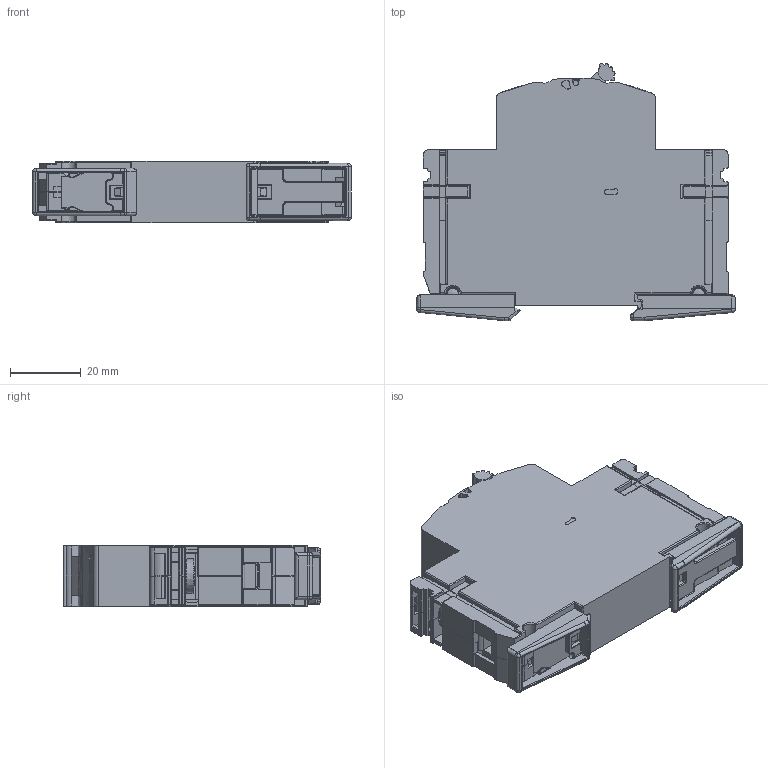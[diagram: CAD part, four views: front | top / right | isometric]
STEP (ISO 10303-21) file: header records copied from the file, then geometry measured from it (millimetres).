
FILE_DESCRIPTION (( 'STEP AP214' ), '1' );
FILE_NAME ('LPE-1_zj2.step', '2013-06-24T08:46:58', ( 'Siemens' ), ( 'Siemens' ), 'SwSTEP 2.0', 'SolidWorks 2011', '' );
FILE_SCHEMA (( 'AUTOMOTIVE_DESIGN' ));
Length unit declared in the file: millimetre
Products named in the file (1): LPE-1_zj2
Bounding box: 90.21 x 72.92 x 17.55 mm (x, y, z)
Volume: 76568.1 mm3; surface area: 22226 mm2
Topology: 1 solids, 4 shells, 1784 faces, 5044 edges, 3193 vertices
Faces by surface type: plane 938, cylinder 575, torus 106, bspline 93, cone 37, sphere 35
Entity records: 86880 total; most frequent: CARTESIAN_POINT 24565, ORIENTED_EDGE 9976, DIRECTION 7254, EDGE_CURVE 4988, VERTEX_POINT 3189, LINE 3046, VECTOR 3046, AXIS2_PLACEMENT_3D 2104
